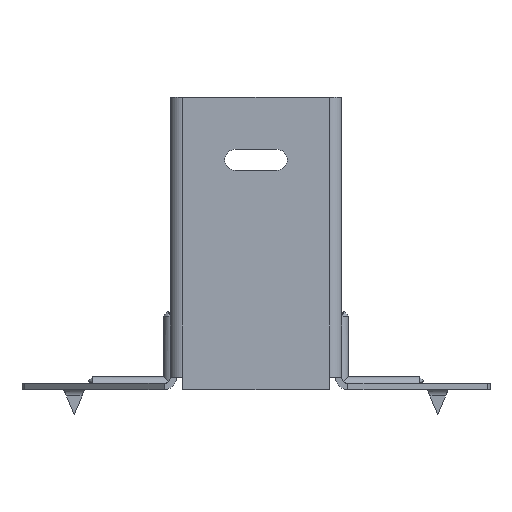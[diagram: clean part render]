
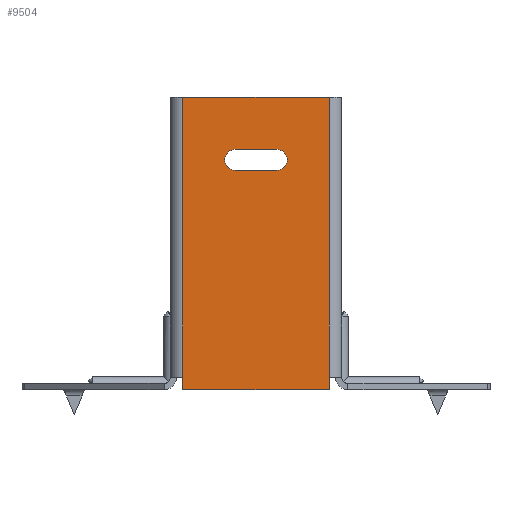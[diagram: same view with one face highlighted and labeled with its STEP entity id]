
A CAD part, front view. The second image highlights one B-rep face of the part: STEP entity #9504.
In plain terms, the highlighted planar face has unit normal (0, -1, 0).
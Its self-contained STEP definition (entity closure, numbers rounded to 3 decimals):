
#53 = DIRECTION ( 'NONE',  ( 0., 0., 1. ) ) ;
#66 = PLANE ( 'NONE',  #7158 ) ;
#90 = DIRECTION ( 'NONE',  ( 0., 1., 0. ) ) ;
#240 = LINE ( 'NONE', #3155, #4802 ) ;
#317 = CARTESIAN_POINT ( 'NONE',  ( 17.5, 0., -70. ) ) ;
#357 = DIRECTION ( 'NONE',  ( 0., 1., 0. ) ) ;
#409 = VERTEX_POINT ( 'NONE', #6526 ) ;
#492 = VECTOR ( 'NONE', #4754, 1000. ) ;
#580 = ORIENTED_EDGE ( 'NONE', *, *, #3291, .F. ) ;
#601 = EDGE_CURVE ( 'NONE', #8918, #4411, #8086, .T. ) ;
#757 = DIRECTION ( 'NONE',  ( 0., 1., 0. ) ) ;
#769 = LINE ( 'NONE', #5517, #8513 ) ;
#841 = DIRECTION ( 'NONE',  ( 1., 0., 0. ) ) ;
#951 = DIRECTION ( 'NONE',  ( 1., 0., 0. ) ) ;
#962 = VECTOR ( 'NONE', #6989, 1000. ) ;
#970 = DIRECTION ( 'NONE',  ( 0., 0., 1. ) ) ;
#1320 = ORIENTED_EDGE ( 'NONE', *, *, #5135, .T. ) ;
#1349 = EDGE_CURVE ( 'NONE', #2684, #5604, #2474, .T. ) ;
#1614 = FACE_OUTER_BOUND ( 'NONE', #7308, .T. ) ;
#1804 = AXIS2_PLACEMENT_3D ( 'NONE', #4527, #90, #53 ) ;
#1807 = EDGE_CURVE ( 'NONE', #7990, #6452, #1892, .T. ) ;
#1821 = CARTESIAN_POINT ( 'NONE',  ( -5., 0., -15. ) ) ;
#1892 = LINE ( 'NONE', #317, #492 ) ;
#2135 = EDGE_CURVE ( 'NONE', #3078, #409, #8326, .T. ) ;
#2139 = LINE ( 'NONE', #4206, #6736 ) ;
#2166 = CARTESIAN_POINT ( 'NONE',  ( 5., 0., -12.5 ) ) ;
#2305 = DIRECTION ( 'NONE',  ( -1., 0., 0. ) ) ;
#2428 = CARTESIAN_POINT ( 'NONE',  ( -19., 0., -70. ) ) ;
#2460 = VERTEX_POINT ( 'NONE', #8061 ) ;
#2474 = LINE ( 'NONE', #9177, #962 ) ;
#2552 = ORIENTED_EDGE ( 'NONE', *, *, #2135, .T. ) ;
#2684 = VERTEX_POINT ( 'NONE', #6072 ) ;
#2796 = CARTESIAN_POINT ( 'NONE',  ( 17.5, 0., -70. ) ) ;
#2998 = DIRECTION ( 'NONE',  ( 0., 0., 1. ) ) ;
#3078 = VERTEX_POINT ( 'NONE', #2166 ) ;
#3155 = CARTESIAN_POINT ( 'NONE',  ( -19., 0., 0. ) ) ;
#3291 = EDGE_CURVE ( 'NONE', #2684, #6598, #240, .T. ) ;
#3357 = CARTESIAN_POINT ( 'NONE',  ( 17.5, 0., 0. ) ) ;
#3515 = EDGE_LOOP ( 'NONE', ( #1320, #6992, #4318, #2552 ) ) ;
#3589 = VECTOR ( 'NONE', #6285, 1000. ) ;
#3860 = EDGE_CURVE ( 'NONE', #7990, #2460, #8055, .T. ) ;
#3931 = EDGE_CURVE ( 'NONE', #5604, #2460, #5140, .T. ) ;
#3979 = ORIENTED_EDGE ( 'NONE', *, *, #1807, .T. ) ;
#4206 = CARTESIAN_POINT ( 'NONE',  ( -5., 0., -12.5 ) ) ;
#4318 = ORIENTED_EDGE ( 'NONE', *, *, #8523, .T. ) ;
#4354 = ORIENTED_EDGE ( 'NONE', *, *, #3931, .T. ) ;
#4411 = VERTEX_POINT ( 'NONE', #5216 ) ;
#4527 = CARTESIAN_POINT ( 'NONE',  ( 5., 0., -15. ) ) ;
#4754 = DIRECTION ( 'NONE',  ( 0., 0., 1. ) ) ;
#4802 = VECTOR ( 'NONE', #951, 1000. ) ;
#5135 = EDGE_CURVE ( 'NONE', #409, #8918, #9555, .T. ) ;
#5140 = LINE ( 'NONE', #9688, #6557 ) ;
#5216 = CARTESIAN_POINT ( 'NONE',  ( -5., 0., -12.5 ) ) ;
#5316 = CARTESIAN_POINT ( 'NONE',  ( -5., 0., -17.5 ) ) ;
#5494 = CARTESIAN_POINT ( 'NONE',  ( 17.5, 0., -67. ) ) ;
#5497 = VECTOR ( 'NONE', #2305, 1000. ) ;
#5517 = CARTESIAN_POINT ( 'NONE',  ( 17.5, 0., -70. ) ) ;
#5604 = VERTEX_POINT ( 'NONE', #6675 ) ;
#5606 = DIRECTION ( 'NONE',  ( 0., 0., 1. ) ) ;
#5817 = EDGE_CURVE ( 'NONE', #6452, #6598, #769, .T. ) ;
#5969 = CARTESIAN_POINT ( 'NONE',  ( 0., 0., 0. ) ) ;
#6069 = FACE_BOUND ( 'NONE', #3515, .T. ) ;
#6072 = CARTESIAN_POINT ( 'NONE',  ( -17.5, 0., 0. ) ) ;
#6285 = DIRECTION ( 'NONE',  ( -1., 0., 0. ) ) ;
#6452 = VERTEX_POINT ( 'NONE', #5494 ) ;
#6526 = CARTESIAN_POINT ( 'NONE',  ( 5., 0., -17.5 ) ) ;
#6557 = VECTOR ( 'NONE', #8901, 1000. ) ;
#6598 = VERTEX_POINT ( 'NONE', #3357 ) ;
#6675 = CARTESIAN_POINT ( 'NONE',  ( -17.5, 0., -67. ) ) ;
#6736 = VECTOR ( 'NONE', #841, 1000. ) ;
#6989 = DIRECTION ( 'NONE',  ( 0., 0., -1. ) ) ;
#6992 = ORIENTED_EDGE ( 'NONE', *, *, #601, .T. ) ;
#7158 = AXIS2_PLACEMENT_3D ( 'NONE', #5969, #757, #2998 ) ;
#7189 = AXIS2_PLACEMENT_3D ( 'NONE', #1821, #357, #5606 ) ;
#7308 = EDGE_LOOP ( 'NONE', ( #9154, #4354, #8798, #3979, #8355, #580 ) ) ;
#7990 = VERTEX_POINT ( 'NONE', #2796 ) ;
#8055 = LINE ( 'NONE', #2428, #3589 ) ;
#8061 = CARTESIAN_POINT ( 'NONE',  ( -17.5, 0., -70. ) ) ;
#8086 = CIRCLE ( 'NONE', #7189, 2.5 ) ;
#8326 = CIRCLE ( 'NONE', #1804, 2.5 ) ;
#8355 = ORIENTED_EDGE ( 'NONE', *, *, #5817, .T. ) ;
#8513 = VECTOR ( 'NONE', #970, 1000. ) ;
#8523 = EDGE_CURVE ( 'NONE', #4411, #3078, #2139, .T. ) ;
#8798 = ORIENTED_EDGE ( 'NONE', *, *, #3860, .F. ) ;
#8901 = DIRECTION ( 'NONE',  ( 0., 0., -1. ) ) ;
#8918 = VERTEX_POINT ( 'NONE', #9014 ) ;
#9014 = CARTESIAN_POINT ( 'NONE',  ( -5., 0., -17.5 ) ) ;
#9154 = ORIENTED_EDGE ( 'NONE', *, *, #1349, .T. ) ;
#9177 = CARTESIAN_POINT ( 'NONE',  ( -17.5, 0., 0. ) ) ;
#9504 = ADVANCED_FACE ( 'NONE', ( #6069, #1614 ), #66, .F. ) ;
#9555 = LINE ( 'NONE', #5316, #5497 ) ;
#9688 = CARTESIAN_POINT ( 'NONE',  ( -17.5, 0., 0. ) ) ;
